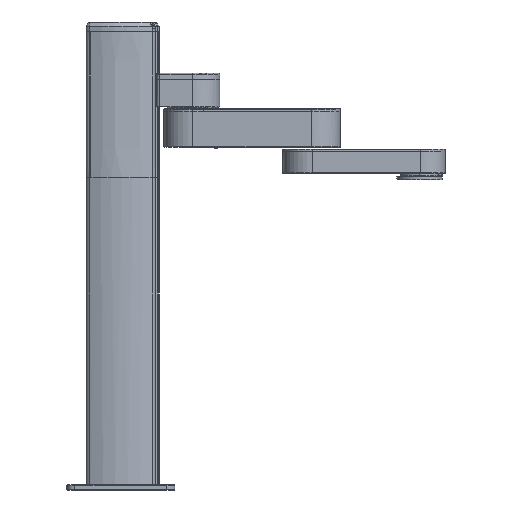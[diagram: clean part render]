
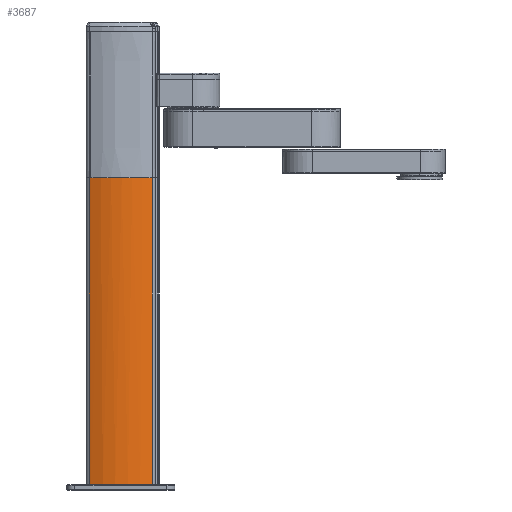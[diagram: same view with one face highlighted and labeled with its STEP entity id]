
A CAD part, front view. The second image highlights one B-rep face of the part: STEP entity #3687.
In plain terms, the highlighted cylindrical face has radius 140 mm (diameter 280 mm), a partial arc.
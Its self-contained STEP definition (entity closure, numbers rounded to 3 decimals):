
#97=CARTESIAN_POINT('Vertex',(0.,61.837,57.077)) ;
#133=CARTESIAN_POINT('Control Point',(0.,63.,54.397)) ;
#134=CARTESIAN_POINT('Control Point',(0.,62.773,54.935)) ;
#135=CARTESIAN_POINT('Control Point',(0.,62.543,55.472)) ;
#136=CARTESIAN_POINT('Control Point',(0.,62.31,56.008)) ;
#137=CARTESIAN_POINT('Control Point',(0.,62.075,56.543)) ;
#138=CARTESIAN_POINT('Control Point',(0.,61.837,57.077)) ;
#139=CARTESIAN_POINT('Vertex',(0.,63.,54.397)) ;
#175=CARTESIAN_POINT('Control Point',(0.,60.853,-59.231)) ;
#176=CARTESIAN_POINT('Control Point',(0.,70.755,-38.024)) ;
#177=CARTESIAN_POINT('Control Point',(0.,76.227,-14.747)) ;
#178=CARTESIAN_POINT('Control Point',(0.,76.683,9.364)) ;
#179=CARTESIAN_POINT('Control Point',(0.,72.094,32.831)) ;
#180=CARTESIAN_POINT('Control Point',(0.,63.,54.397)) ;
#181=CARTESIAN_POINT('Vertex',(0.,60.853,-59.231)) ;
#3494=CARTESIAN_POINT('Vertex',(568.,61.837,57.077)) ;
#3497=CARTESIAN_POINT('Line Origine',(284.,61.837,57.077)) ;
#3640=CARTESIAN_POINT('Vertex',(568.,60.853,-59.231)) ;
#3650=CARTESIAN_POINT('Line Origine',(284.,60.853,-59.231)) ;
#3662=CARTESIAN_POINT('Axis2P3D Location',(284.66,-66.,0.)) ;
#3667=CARTESIAN_POINT('Axis2P3D Location',(568.,-66.,0.)) ;
#3671=CARTESIAN_POINT('Vertex',(568.,63.,54.397)) ;
#3674=CARTESIAN_POINT('Axis2P3D Location',(568.,-66.,0.)) ;
#3498=DIRECTION('Vector Direction',(-1.,0.,0.)) ;
#3651=DIRECTION('Vector Direction',(1.,0.,0.)) ;
#3663=DIRECTION('Axis2P3D Direction',(-1.,0.,0.)) ;
#3664=DIRECTION('Axis2P3D XDirection',(0.,0.736,0.677)) ;
#3668=DIRECTION('Axis2P3D Direction',(-1.,0.,0.)) ;
#3675=DIRECTION('Axis2P3D Direction',(-1.,0.,0.)) ;
#3665=AXIS2_PLACEMENT_3D('Cylinder Axis2P3D',#3662,#3663,#3664) ;
#3669=AXIS2_PLACEMENT_3D('Circle Axis2P3D',#3667,#3668,$) ;
#3676=AXIS2_PLACEMENT_3D('Circle Axis2P3D',#3674,#3675,$) ;
#3680=ORIENTED_EDGE('',*,*,#3673,.F.) ;
#3681=ORIENTED_EDGE('',*,*,#3678,.F.) ;
#3682=ORIENTED_EDGE('',*,*,#3654,.F.) ;
#3683=ORIENTED_EDGE('',*,*,#183,.T.) ;
#3684=ORIENTED_EDGE('',*,*,#141,.T.) ;
#3685=ORIENTED_EDGE('',*,*,#3501,.T.) ;
#3499=VECTOR('Line Direction',#3498,1.) ;
#3652=VECTOR('Line Direction',#3651,1.) ;
#3687=ADVANCED_FACE('\X2\96F64EF651E04F554F53\X0\',(#3686),#3666,.T.) ;
#132=B_SPLINE_CURVE_WITH_KNOTS('',5,(#133,#134,#135,#136,#137,#138),.UNSPECIFIED.,.F.,.U.,(6,6),(861.945,864.867),.UNSPECIFIED.) ;
#174=B_SPLINE_CURVE_WITH_KNOTS('',5,(#175,#176,#177,#178,#179,#180),.UNSPECIFIED.,.F.,.U.,(6,6),(744.92,861.945),.UNSPECIFIED.) ;
#3670=CIRCLE('generated circle',#3669,140.) ;
#3677=CIRCLE('generated circle',#3676,140.) ;
#3666=CYLINDRICAL_SURFACE('generated cylinder',#3665,140.) ;
#141=EDGE_CURVE('',#140,#98,#132,.T.) ;
#183=EDGE_CURVE('',#182,#140,#174,.T.) ;
#3501=EDGE_CURVE('',#98,#3495,#3500,.F.) ;
#3654=EDGE_CURVE('',#182,#3641,#3653,.T.) ;
#3673=EDGE_CURVE('',#3672,#3495,#3670,.F.) ;
#3678=EDGE_CURVE('',#3641,#3672,#3677,.F.) ;
#3679=EDGE_LOOP('',(#3680,#3681,#3682,#3683,#3684,#3685)) ;
#3686=FACE_OUTER_BOUND('',#3679,.T.) ;
#3500=LINE('Line',#3497,#3499) ;
#3653=LINE('Line',#3650,#3652) ;
#98=VERTEX_POINT('',#97) ;
#140=VERTEX_POINT('',#139) ;
#182=VERTEX_POINT('',#181) ;
#3495=VERTEX_POINT('',#3494) ;
#3641=VERTEX_POINT('',#3640) ;
#3672=VERTEX_POINT('',#3671) ;
